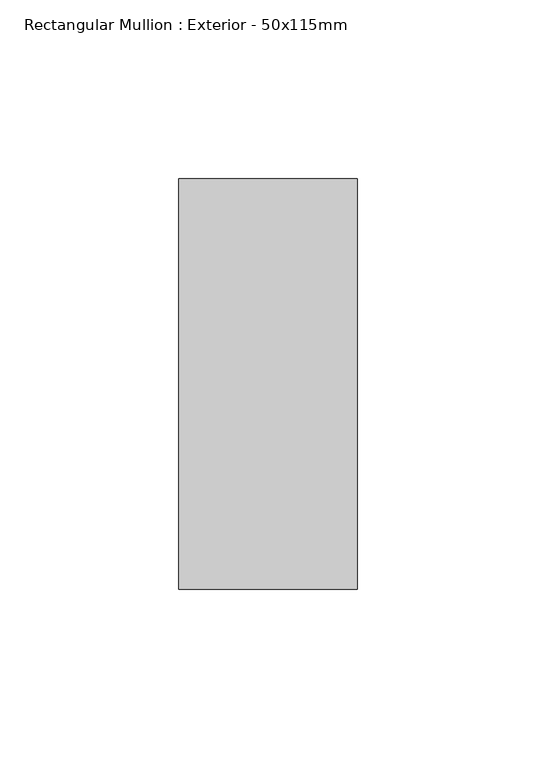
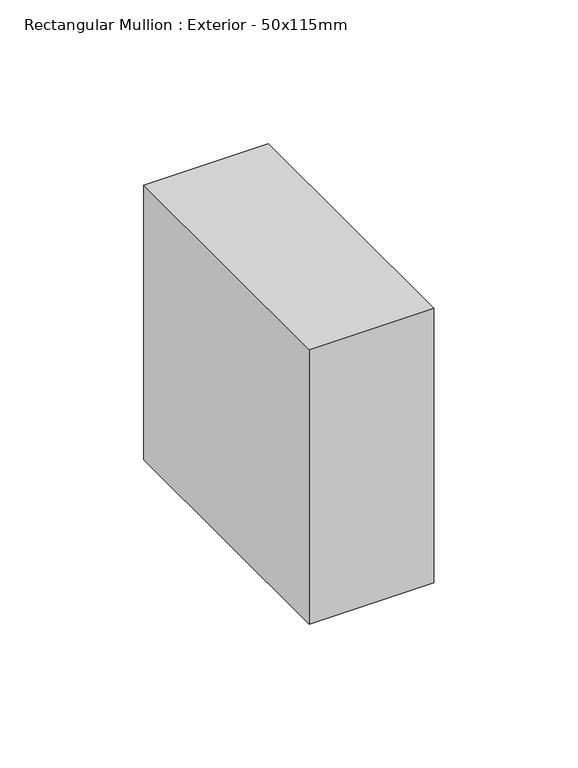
"""IFC4 building model written with IfcOpenShell, lengths in millimetres: member geometry, Rectangular Mullion : Exterior - 50x115mm."""

import ifcopenshell
import ifcopenshell.guid

model = None  # the IFC model being written
_history = None  # IfcOwnerHistory: only IFC2X3 demands one
_inside = {}  # id of a spatial element -> (the spatial element, [elements in it])
_under = {}  # id of a project, library or spatial element -> (it, [spatial elements below it])
_declared = {}  # id of a project -> (the project, [libraries it declares])
_typed = {}  # id of a type object -> (the type object, [elements of that type])
_made_of = {}  # id of a material, layer set ... -> (it, [elements and type objects made of it])


def new_model(schema):
    """Start an empty IFC model of exactly this schema.

    Asked for "IFC4X3", IfcOpenShell would pick the latest addendum, in which some entities
    have other attributes; the version numbers below select the first issue.
    IFC2X3 requires an IfcOwnerHistory on every rooted entity: one is made here for all.
    """
    global model, _history
    if schema == "IFC4X3":
        model = ifcopenshell.file(schema_version=(4, 3, 0, 0))
    else:
        model = ifcopenshell.file(schema=schema)
    _inside.clear()
    _under.clear()
    _declared.clear()
    _typed.clear()
    _made_of.clear()
    _history = None
    if model.schema == "IFC2X3":
        org = make("IfcOrganization", Name="unknown")
        user = make(
            "IfcPersonAndOrganization",
            ThePerson=make("IfcPerson", FamilyName="unknown"),
            TheOrganization=org,
        )
        app = make(
            "IfcApplication",
            ApplicationDeveloper=org,
            Version="unknown",
            ApplicationFullName="unknown",
            ApplicationIdentifier="unknown",
        )
        _history = make(
            "IfcOwnerHistory",
            OwningUser=user,
            OwningApplication=app,
            ChangeAction="ADDED",
            CreationDate=0,
        )
    return model


def make(cls, **values):
    """One entity of the class cls with the attributes given. An attribute that is None is left unset."""
    return model.create_entity(
        cls, **{name: value for name, value in values.items() if value is not None}
    )


def rooted(cls, **values):
    """An entity with a GlobalId (a new one), such as an element, a storey or a relation."""
    return make(cls, GlobalId=ifcopenshell.guid.new(), OwnerHistory=_history, **values)


def si_unit(unit_type, name, prefix=None):
    """IfcSIUnit, for example si_unit("LENGTHUNIT", "METRE", prefix="MILLI")."""
    return make("IfcSIUnit", UnitType=unit_type, Prefix=prefix, Name=name)


def assignment(units):
    """IfcUnitAssignment: the units of a project."""
    return None if units is None else make("IfcUnitAssignment", Units=units)


def point(xyz):
    """IfcCartesianPoint."""
    return None if xyz is None else make("IfcCartesianPoint", Coordinates=xyz)


def direction(xyz):
    """IfcDirection."""
    return None if xyz is None else make("IfcDirection", DirectionRatios=xyz)


def frame(location, z_axis=None, x_axis=None):
    """IfcAxis2Placement3D, a coordinate frame: its origin and axes. An axis left out is left unset."""
    return make(
        "IfcAxis2Placement3D",
        Location=point(location),
        Axis=direction(z_axis),
        RefDirection=direction(x_axis),
    )


def origin():
    """The frame at (0, 0, 0) with its axes left unset."""
    return frame((0.0, 0.0, 0.0))


def place(relative_to, where):
    """IfcLocalPlacement: puts the frame where relative to a parent placement (None: the world)."""
    return make(
        "IfcLocalPlacement", PlacementRelTo=relative_to, RelativePlacement=where
    )


def context(
    kind, dimensions, precision=None, world=None, true_north=None, identifier=None
):
    """IfcGeometricRepresentationContext, for example the 3D "Model" context."""
    return make(
        "IfcGeometricRepresentationContext",
        ContextIdentifier=identifier,
        ContextType=kind,
        CoordinateSpaceDimension=dimensions,
        Precision=precision,
        WorldCoordinateSystem=world,
        TrueNorth=true_north,
    )


def project(units=None, contexts=None):
    """IfcProject with its units and contexts."""
    return rooted(
        "IfcProject",
        Name="project",
        RepresentationContexts=contexts,
        UnitsInContext=assignment(units),
    )


def spatial(cls, under=None, at=None, **own):
    """A site, building, storey or space (cls), placed at a placement, below another one or the project."""
    s = rooted(cls, ObjectPlacement=at, **own)
    if under is not None:
        _under.setdefault(under.id(), (under, []))[1].append(s)
    return s


def polyline(points):
    """IfcPolyline through the points."""
    return make("IfcPolyline", Points=[point(p) for p in points])


def outline(outer, holes=None, kind="AREA"):
    """IfcArbitraryClosedProfileDef: a profile drawn as a closed curve; with holes, ...WithVoids."""
    if holes is None:
        return make("IfcArbitraryClosedProfileDef", ProfileType=kind, OuterCurve=outer)
    return make(
        "IfcArbitraryProfileDefWithVoids",
        ProfileType=kind,
        OuterCurve=outer,
        InnerCurves=holes,
    )


def extrude(swept, where, along, depth):
    """IfcExtrudedAreaSolid: the profile swept, set in the frame where, extruded along a direction by depth."""
    return make(
        "IfcExtrudedAreaSolid",
        SweptArea=swept,
        Position=where,
        ExtrudedDirection=direction(along),
        Depth=depth,
    )


def shape(context_of_items, identifier, shape_type, items):
    """IfcShapeRepresentation: the items that make up one representation, for example the "Body"."""
    return make(
        "IfcShapeRepresentation",
        ContextOfItems=context_of_items,
        RepresentationIdentifier=identifier,
        RepresentationType=shape_type,
        Items=items,
    )


def source(mapping_origin, context_of_items, identifier, shape_type, items):
    """IfcRepresentationMap: a shape defined once, which mapped items show again and again."""
    return make(
        "IfcRepresentationMap",
        MappingOrigin=mapping_origin,
        MappedRepresentation=shape(context_of_items, identifier, shape_type, items),
    )


def transform(
    local_origin,
    x_axis=None,
    y_axis=None,
    z_axis=None,
    scale=None,
    scale2=None,
    scale3=None,
    uniform=True,
):
    """IfcCartesianTransformationOperator3D, or its non-uniform kind. x_axis, y_axis, z_axis: its Axis1, 2, 3."""
    if uniform:
        return make(
            "IfcCartesianTransformationOperator3D",
            Axis1=direction(x_axis),
            Axis2=direction(y_axis),
            LocalOrigin=point(local_origin),
            Scale=scale,
            Axis3=direction(z_axis),
        )
    return make(
        "IfcCartesianTransformationOperator3DnonUniform",
        Axis1=direction(x_axis),
        Axis2=direction(y_axis),
        LocalOrigin=point(local_origin),
        Scale=scale,
        Axis3=direction(z_axis),
        Scale2=scale2,
        Scale3=scale3,
    )


def mapped(mapping_source, mapping_target):
    """IfcMappedItem: shows the shape of a source again, moved by a transform."""
    return make(
        "IfcMappedItem", MappingSource=mapping_source, MappingTarget=mapping_target
    )


def made_of(thing, what):
    """Note that an element or type object is made of a material, layer set ...; save() writes the relation."""
    if what is not None:
        _made_of.setdefault(what.id(), (what, []))[1].append(thing)
    return thing


def element(
    cls,
    number,
    at=None,
    inside=None,
    cuts=None,
    type_object=None,
    material=None,
    context=None,
    identifier="Body",
    shape_type=None,
    held_by="IfcProductDefinitionShape",
    body=None,
    shapes=None,
    **own,
):
    """One element of the class cls, such as IfcWall. Its Tag is "e" and its number.

    at: its placement. inside: the storey or other place that contains it. cuts: it is an
    opening in that element (IfcRelVoidsElement). A single representation is given by context,
    identifier, shape_type and body (its items); several are given by shapes. held_by: the class
    of the entity that holds the representations. save() writes the other relations.
    """
    e = rooted(cls, Tag="e%d" % number, ObjectPlacement=at, **own)
    if body is not None:
        shapes = [shape(context, identifier, shape_type, body)]
    if shapes is not None:
        e.Representation = make(held_by, Representations=shapes)
    if inside is not None:
        _inside.setdefault(inside.id(), (inside, []))[1].append(e)
    if cuts is not None:
        rooted(
            "IfcRelVoidsElement", RelatingBuildingElement=cuts, RelatedOpeningElement=e
        )
    if type_object is not None:
        _typed.setdefault(type_object.id(), (type_object, []))[1].append(e)
    return made_of(e, material)


def aggregate(whole, parts):
    """IfcRelAggregates: a whole, such as a stair, and the parts it consists of."""
    return rooted("IfcRelAggregates", RelatingObject=whole, RelatedObjects=parts)


def save(model, path):
    """Write the relations noted so far, then the file.

    IfcRelAggregates (storeys below a building ...), IfcRelContainedInSpatialStructure (elements
    in a storey), IfcRelDefinesByType, IfcRelAssociatesMaterial and IfcRelDeclares: one each for
    every whole, place, type object, material and project.
    """
    for whole, parts in _under.values():
        aggregate(whole, parts)
    for where, things in _inside.values():
        rooted(
            "IfcRelContainedInSpatialStructure",
            RelatedElements=things,
            RelatingStructure=where,
        )
    for kind, things in _typed.values():
        rooted("IfcRelDefinesByType", RelatedObjects=things, RelatingType=kind)
    for what, things in _made_of.values():
        rooted("IfcRelAssociatesMaterial", RelatedObjects=things, RelatingMaterial=what)
    for by, libraries in _declared.values():
        rooted("IfcRelDeclares", RelatingContext=by, RelatedDefinitions=libraries)
    model.write(path)


def rectangular_mullion_exterior_50x115mm_69c7e964(model_context):
    return source(origin(), model_context, "Body", "SweptSolid", [
        extrude(outline(polyline([(0.0, 115.0), (0.0, 0.0), (-50.0, 0.0), (-50.0, 115.0), (0.0, 115.0)])), frame((0.0, 0.0, -116.4872502), z_axis=(0.0, 0.0, 1.0), x_axis=(1.0, 0.0, 0.0)), (0.0, 0.0, 1.0), 116.4872502),
    ])


if __name__ == "__main__":
    model = new_model("IFC4")
    model_context = context("Model", 3, world=origin())
    ifc_project = project(units=[si_unit("LENGTHUNIT", "METRE", prefix="MILLI")], contexts=[model_context])
    site = spatial("IfcSite", under=ifc_project)
    building = spatial("IfcBuilding", under=site)
    placement = place(None, origin())
    rectangular_mullion_exterior_50x115mm_shape = rectangular_mullion_exterior_50x115mm_69c7e964(model_context)
    element("IfcMember", 1, ObjectType="Rectangular Mullion : Exterior - 50x115mm", at=placement, inside=building, context=model_context, shape_type="MappedRepresentation", body=[
        mapped(rectangular_mullion_exterior_50x115mm_shape, transform((0.0, 0.0, 0.0), x_axis=(1.0, 0.0, 0.0), y_axis=(0.0, 1.0, 0.0), z_axis=(0.0, 0.0, 1.0))),
    ])
    save(model, "model.ifc")
